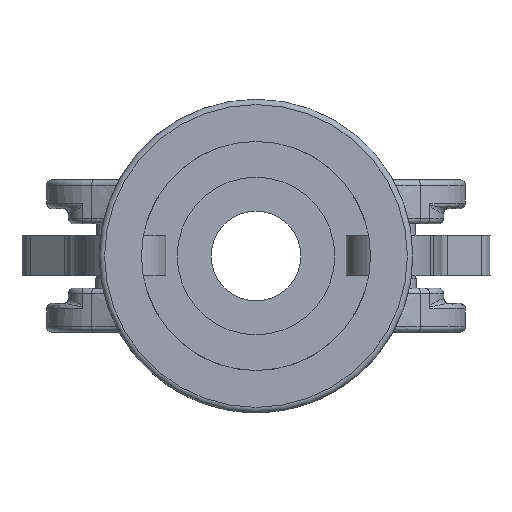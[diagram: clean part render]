
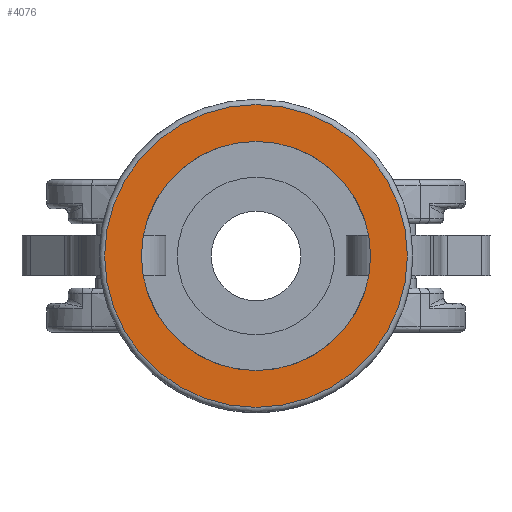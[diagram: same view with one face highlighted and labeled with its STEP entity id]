
A CAD part, left-side view. The second image highlights one B-rep face of the part: STEP entity #4076.
In plain terms, the highlighted planar face has unit normal (-1, 0, 0) as drawn and (1, 0, 0) by its records, which use the part's own axes.
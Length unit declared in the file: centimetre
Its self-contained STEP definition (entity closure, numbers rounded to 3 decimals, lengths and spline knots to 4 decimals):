
#626=PLANE('',#4368);
#1457=VERTEX_POINT('',#31467);
#1459=VERTEX_POINT('',#31473);
#1677=CIRCLE('',#4365,2.1463);
#1679=CIRCLE('',#4369,1.6256);
#2109=EDGE_CURVE('',#1457,#1457,#1677,.T.);
#2111=EDGE_CURVE('',#1459,#1459,#1679,.T.);
#2921=ORIENTED_EDGE('',*,*,#2111,.T.);
#2922=ORIENTED_EDGE('',*,*,#2109,.F.);
#3553=EDGE_LOOP('',(#2921));
#3554=EDGE_LOOP('',(#2922));
#3823=FACE_BOUND('',#3553,.T.);
#3824=FACE_BOUND('',#3554,.T.);
#4076=ADVANCED_FACE('',(#3823,#3824),#626,.T.);
#4365=AXIS2_PLACEMENT_3D('',#31466,#4966,#4967);
#4368=AXIS2_PLACEMENT_3D('',#31471,#4972,$);
#4369=AXIS2_PLACEMENT_3D('',#31472,#4973,#4974);
#4966=DIRECTION('',(-1.,0.,0.));
#4967=DIRECTION('',(0.,0.,2.146));
#4972=DIRECTION('',(1.,0.,0.));
#4973=DIRECTION('',(-1.,0.,0.));
#4974=DIRECTION('',(0.,0.,-1.626));
#31466=CARTESIAN_POINT('',(0.,0.,0.));
#31467=CARTESIAN_POINT('',(0.,0.,-2.1463));
#31471=CARTESIAN_POINT('',(0.,0.,0.));
#31472=CARTESIAN_POINT('',(0.,0.,0.));
#31473=CARTESIAN_POINT('',(0.,0.,-1.6256));
